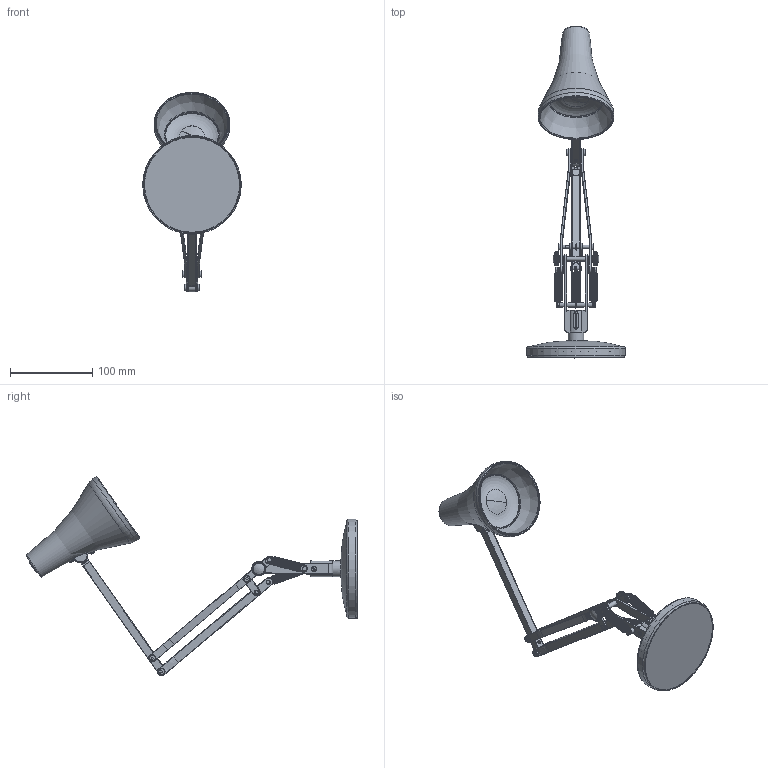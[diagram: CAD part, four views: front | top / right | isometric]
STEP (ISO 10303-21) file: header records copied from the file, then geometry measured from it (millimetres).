
FILE_DESCRIPTION(/* description */ (''),/* implementation_level */ '2;1');
FILE_NAME(/* name */ 'C:/Users/tfalope/Desktop/tech file/90_Mini_Mini_Desk_Lamp_STEP_01 v1.step',/* time_stamp */ '2021-10-11T12:57:38+01:00',/* author */ (''),/* organization */ (''),/* preprocessor_version */ 'ST-DEVELOPER v18.1',/* originating_system */ 'Autodesk Translation Framework v10.10.0.1391',/* authorisation */ '');
FILE_SCHEMA (('AUTOMOTIVE_DESIGN { 1 0 10303 214 3 1 1 }'));
Products named in the file (2): 90_Mini_Mini_Desk_Lamp_STEP_01; Component1
Assembly tree (1 placements, depth 2):
  90_Mini_Mini_Desk_Lamp_STEP_01
    Component1
Bounding box: 120 x 403.7 x 242.42 mm (x, y, z)
Volume: 603021.2 mm3; surface area: 215554.2 mm2
Topology: 48 solids, 52 shells, 2836 faces, 6585 edges, 3886 vertices
Faces by surface type: bspline 995, plane 806, cylinder 534, torus 277, cone 186, sphere 38
Full cylindrical faces by diameter (mm): 1 x6, 2 x1, 2.7 x2, 3 x13, 3.2 x1, 3.25 x2, 3.3 x4, 3.4 x2, 4 x10, 4.2 x7, 4.25 x4, 4.8 x4, 5 x10, 5.2 x8, 5.5 x7, 5.54 x2, 5.7 x2, 6 x4, 8 x6, 9 x4, 9.8 x1, 10 x2, 14 x2, 15 x1, 15.5 x1, 19 x1, 65.5 x1, 89.4 x1, 90.4 x1, 92 x1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
Entity records: 138698 total; most frequent: CARTESIAN_POINT 76685, ORIENTED_EDGE 13094, DIRECTION 11435, EDGE_CURVE 6547, AXIS2_PLACEMENT_3D 4706, VERTEX_POINT 3885, EDGE_LOOP 2994, FACE_OUTER_BOUND 2836
